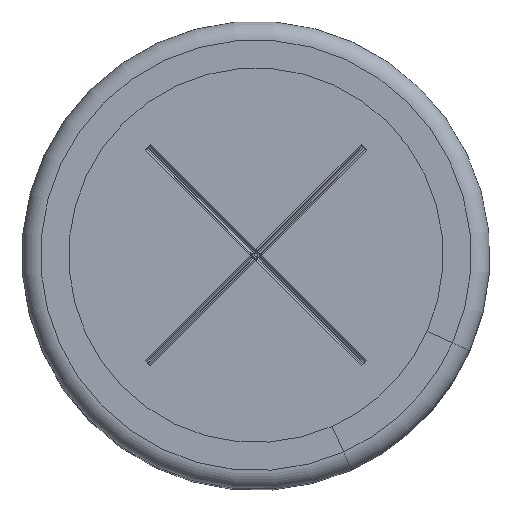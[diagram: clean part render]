
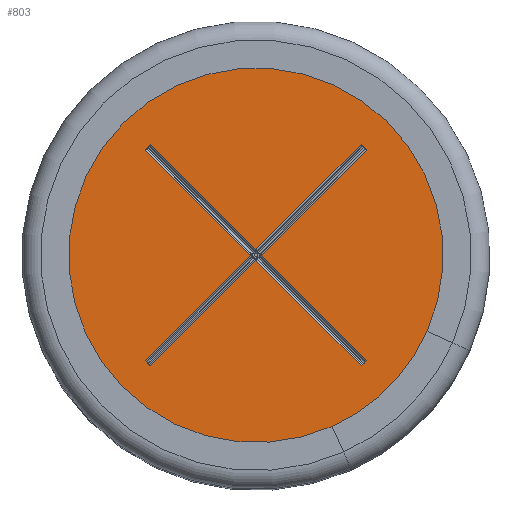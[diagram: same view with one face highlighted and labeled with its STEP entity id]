
A CAD part, top view. The second image highlights one B-rep face of the part: STEP entity #803.
In plain terms, the highlighted planar face has unit normal (0, 0, 1).
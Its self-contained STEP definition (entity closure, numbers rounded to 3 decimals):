
#176=FACE_BOUND('',#1284,.T.);
#177=FACE_BOUND('',#1285,.T.);
#687=PLANE('',#4047);
#803=ADVANCED_FACE('',(#176,#177),#687,.T.);
#1284=EDGE_LOOP('',(#2130));
#1285=EDGE_LOOP('',(#2131,#2132,#2133,#2134,#2135,#2136,#2137,#2138,#2139,
#2140,#2141,#2142));
#1517=LINE('',#5710,#1771);
#1518=LINE('',#5713,#1772);
#1519=LINE('',#5715,#1773);
#1520=LINE('',#5717,#1774);
#1521=LINE('',#5719,#1775);
#1522=LINE('',#5721,#1776);
#1523=LINE('',#5723,#1777);
#1524=LINE('',#5725,#1778);
#1525=LINE('',#5727,#1779);
#1526=LINE('',#5729,#1780);
#1527=LINE('',#5731,#1781);
#1528=LINE('',#5733,#1782);
#1771=VECTOR('',#4590,1.);
#1772=VECTOR('',#4591,1.);
#1773=VECTOR('',#4592,1.);
#1774=VECTOR('',#4593,1.);
#1775=VECTOR('',#4594,1.);
#1776=VECTOR('',#4595,1.);
#1777=VECTOR('',#4596,1.);
#1778=VECTOR('',#4597,1.);
#1779=VECTOR('',#4598,1.);
#1780=VECTOR('',#4599,1.);
#1781=VECTOR('',#4600,1.);
#1782=VECTOR('',#4601,1.);
#2130=ORIENTED_EDGE('',*,*,#3368,.F.);
#2131=ORIENTED_EDGE('',*,*,#3369,.T.);
#2132=ORIENTED_EDGE('',*,*,#3370,.T.);
#2133=ORIENTED_EDGE('',*,*,#3371,.T.);
#2134=ORIENTED_EDGE('',*,*,#3372,.F.);
#2135=ORIENTED_EDGE('',*,*,#3373,.T.);
#2136=ORIENTED_EDGE('',*,*,#3374,.T.);
#2137=ORIENTED_EDGE('',*,*,#3375,.F.);
#2138=ORIENTED_EDGE('',*,*,#3376,.T.);
#2139=ORIENTED_EDGE('',*,*,#3377,.T.);
#2140=ORIENTED_EDGE('',*,*,#3378,.T.);
#2141=ORIENTED_EDGE('',*,*,#3379,.T.);
#2142=ORIENTED_EDGE('',*,*,#3380,.T.);
#3038=VERTEX_POINT('',#5709);
#3039=VERTEX_POINT('',#5711);
#3040=VERTEX_POINT('',#5712);
#3041=VERTEX_POINT('',#5714);
#3042=VERTEX_POINT('',#5716);
#3043=VERTEX_POINT('',#5718);
#3044=VERTEX_POINT('',#5720);
#3045=VERTEX_POINT('',#5722);
#3046=VERTEX_POINT('',#5724);
#3047=VERTEX_POINT('',#5726);
#3048=VERTEX_POINT('',#5728);
#3049=VERTEX_POINT('',#5730);
#3050=VERTEX_POINT('',#5732);
#3368=EDGE_CURVE('',#3038,#3038,#3826,.T.);
#3369=EDGE_CURVE('',#3039,#3040,#1517,.T.);
#3370=EDGE_CURVE('',#3040,#3041,#1518,.T.);
#3371=EDGE_CURVE('',#3041,#3042,#1519,.T.);
#3372=EDGE_CURVE('',#3043,#3042,#1520,.T.);
#3373=EDGE_CURVE('',#3043,#3044,#1521,.T.);
#3374=EDGE_CURVE('',#3044,#3045,#1522,.T.);
#3375=EDGE_CURVE('',#3046,#3045,#1523,.T.);
#3376=EDGE_CURVE('',#3046,#3047,#1524,.T.);
#3377=EDGE_CURVE('',#3047,#3048,#1525,.T.);
#3378=EDGE_CURVE('',#3048,#3049,#1526,.T.);
#3379=EDGE_CURVE('',#3049,#3050,#1527,.T.);
#3380=EDGE_CURVE('',#3050,#3039,#1528,.T.);
#3826=CIRCLE('',#4046,11.5);
#4046=AXIS2_PLACEMENT_3D('',#5708,#4588,#4589);
#4047=AXIS2_PLACEMENT_3D('',#5734,#4602,#4603);
#4588=DIRECTION('',(0.,0.,-1.));
#4589=DIRECTION('',(-1.,0.,0.));
#4590=DIRECTION('',(0.707,-0.707,0.));
#4591=DIRECTION('',(-0.707,-0.707,0.));
#4592=DIRECTION('',(0.707,-0.707,0.));
#4593=DIRECTION('',(0.707,0.707,0.));
#4594=DIRECTION('',(-0.707,0.707,0.));
#4595=DIRECTION('',(-0.707,-0.707,0.));
#4596=DIRECTION('',(0.707,-0.707,0.));
#4597=DIRECTION('',(0.707,0.707,0.));
#4598=DIRECTION('',(-0.707,0.707,0.));
#4599=DIRECTION('',(0.707,0.707,0.));
#4600=DIRECTION('',(0.707,-0.707,0.));
#4601=DIRECTION('',(0.707,0.707,0.));
#4602=DIRECTION('',(0.,0.,1.));
#4603=DIRECTION('',(1.,0.,0.));
#5708=CARTESIAN_POINT('',(0.,0.,39.8));
#5709=CARTESIAN_POINT('',(-11.5,0.,39.8));
#5710=CARTESIAN_POINT('',(5.657,5.869,39.8));
#5711=CARTESIAN_POINT('',(5.613,5.913,39.8));
#5712=CARTESIAN_POINT('',(5.913,5.613,39.8));
#5713=CARTESIAN_POINT('',(-5.6,-5.9,39.8));
#5714=CARTESIAN_POINT('',(0.3,0.,39.8));
#5715=CARTESIAN_POINT('',(-5.6,5.9,39.8));
#5716=CARTESIAN_POINT('',(5.913,-5.613,39.8));
#5717=CARTESIAN_POINT('',(5.869,-5.657,39.8));
#5718=CARTESIAN_POINT('',(5.613,-5.913,39.8));
#5719=CARTESIAN_POINT('',(-5.9,5.6,39.8));
#5720=CARTESIAN_POINT('',(0.,-0.3,39.8));
#5721=CARTESIAN_POINT('',(-5.6,-5.9,39.8));
#5722=CARTESIAN_POINT('',(-5.613,-5.913,39.8));
#5723=CARTESIAN_POINT('',(-5.869,-5.657,39.8));
#5724=CARTESIAN_POINT('',(-5.913,-5.613,39.8));
#5725=CARTESIAN_POINT('',(-5.9,-5.6,39.8));
#5726=CARTESIAN_POINT('',(-0.3,0.,39.8));
#5727=CARTESIAN_POINT('',(-5.9,5.6,39.8));
#5728=CARTESIAN_POINT('',(-5.913,5.613,39.8));
#5729=CARTESIAN_POINT('',(-5.657,5.869,39.8));
#5730=CARTESIAN_POINT('',(-5.613,5.913,39.8));
#5731=CARTESIAN_POINT('',(-5.6,5.9,39.8));
#5732=CARTESIAN_POINT('',(0.,0.3,39.8));
#5733=CARTESIAN_POINT('',(-5.9,-5.6,39.8));
#5734=CARTESIAN_POINT('',(-11.5,0.,39.8));
